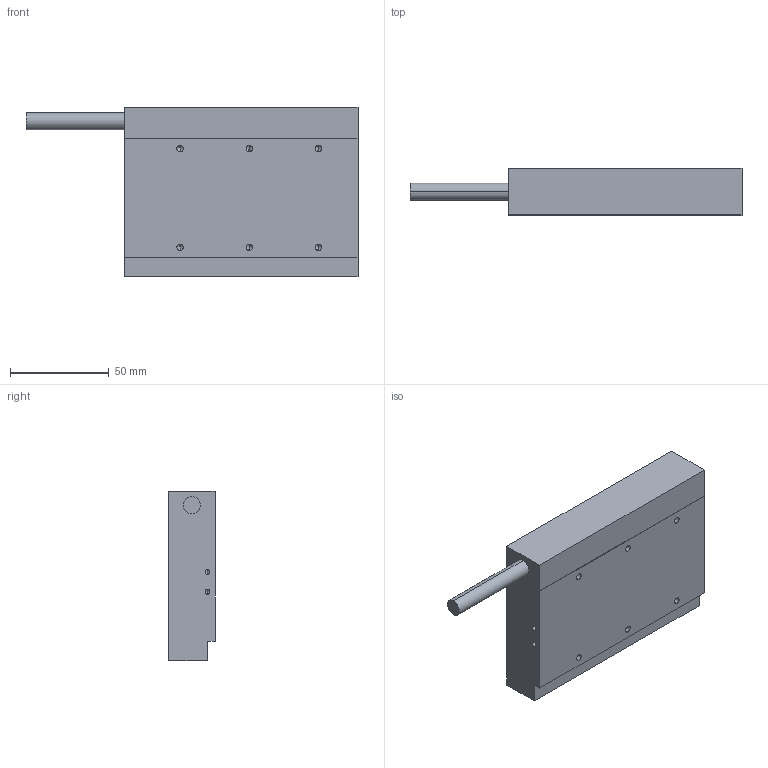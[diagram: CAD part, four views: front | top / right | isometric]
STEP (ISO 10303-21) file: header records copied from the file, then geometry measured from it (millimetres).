
FILE_DESCRIPTION (( 'STEP AP214' ), '1' );
FILE_NAME ('雄赽MK21.STEP', '2025-09-05T08:58:56', ( '' ), ( '' ), 'SwSTEP 2.0', 'SolidWorks 2016', '' );
FILE_SCHEMA (( 'AUTOMOTIVE_DESIGN' ));
Length unit declared in the file: millimetre
Products named in the file (1): 雄赽MK21
Bounding box: 168 x 23.7 x 86 mm (x, y, z)
Volume: 237846.3 mm3; surface area: 31715.6 mm2
Topology: 1 solids, 1 shells, 45 faces, 110 edges, 60 vertices
Faces by surface type: cylinder 18, cone 16, plane 11
Entity records: 1487 total; most frequent: DIRECTION 222, CARTESIAN_POINT 200, ORIENTED_EDGE 188, EDGE_CURVE 94, AXIS2_PLACEMENT_3D 82, VERTEX_POINT 60, VECTOR 58, LINE 58
